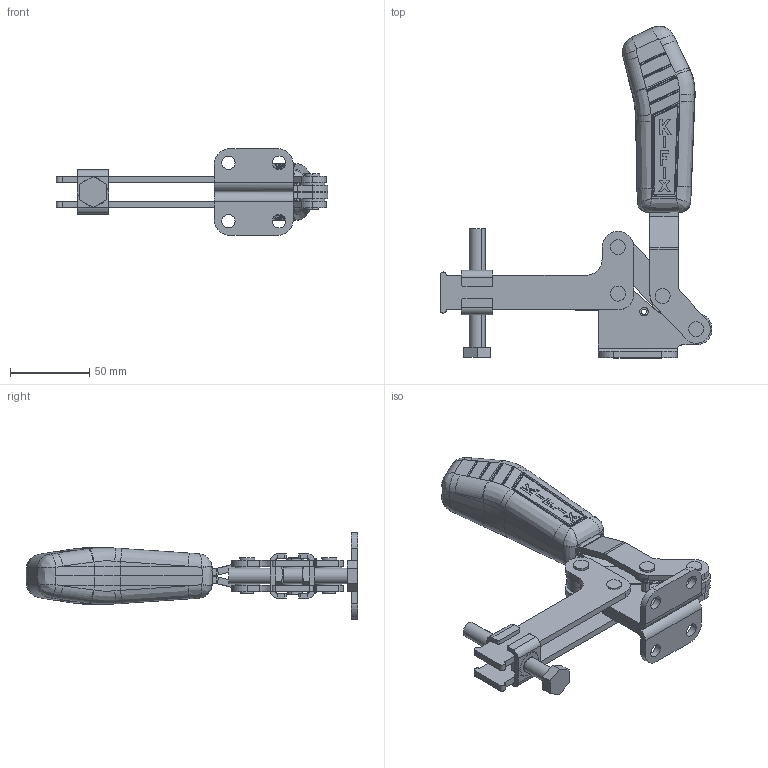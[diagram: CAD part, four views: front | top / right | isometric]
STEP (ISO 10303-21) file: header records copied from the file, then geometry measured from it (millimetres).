
FILE_DESCRIPTION (( 'STEP AP203' ), '1' );
FILE_NAME ('KF-631 DL.STEP', '2014-08-01T18:09:29', ( 'Ricardo' ), ( '' ), 'SwSTEP 2.0', 'SolidWorks 2013', '' );
FILE_SCHEMA (( 'CONFIG_CONTROL_DESIGN' ));
Length unit declared in the file: millimetre
Products named in the file (14): 06.50009; 02.12012_Esquerda; 07.60003; 03.13048; 16.50002; 08.10008; 17.50002; 01.10016_Direita; KF-631 DL; 01.10016_Esquerda; 12.50004; 11.50003; 14.10002; 02.12012_Direita
Assembly tree (27 placements, depth 2):
  KF-631 DL
    02.12012_Direita
    02.12012_Esquerda
    03.13048  x2
    08.10008  x2
    01.10016_Direita
    01.10016_Esquerda
    12.50004
    11.50003  x2
    14.10002  x2
    06.50009  x4
    07.60003
    16.50002
    17.50002  x8
Bounding box: 172 x 209.91 x 55 mm (x, y, z)
Volume: 209653.4 mm3; surface area: 89019.4 mm2
Topology: 27 solids, 27 shells, 862 faces, 2090 edges, 1291 vertices
Faces by surface type: plane 295, cylinder 276, bspline 145, cone 95, sphere 48, torus 3
Entity records: 25050 total; most frequent: CARTESIAN_POINT 8821, ORIENTED_EDGE 3256, DIRECTION 2614, EDGE_CURVE 1628, VERTEX_POINT 1020, AXIS2_PLACEMENT_3D 1015, EDGE_LOOP 726, ADVANCED_FACE 657
